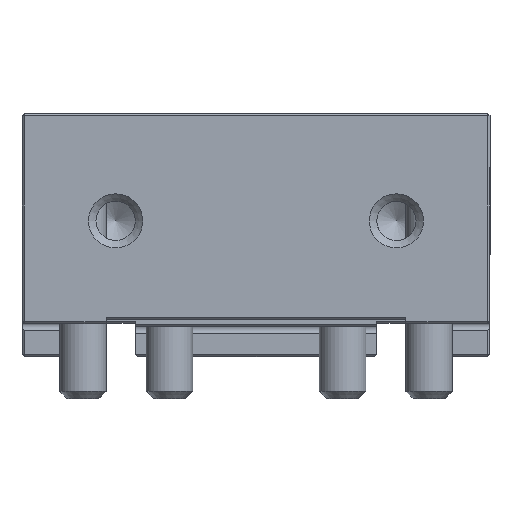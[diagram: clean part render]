
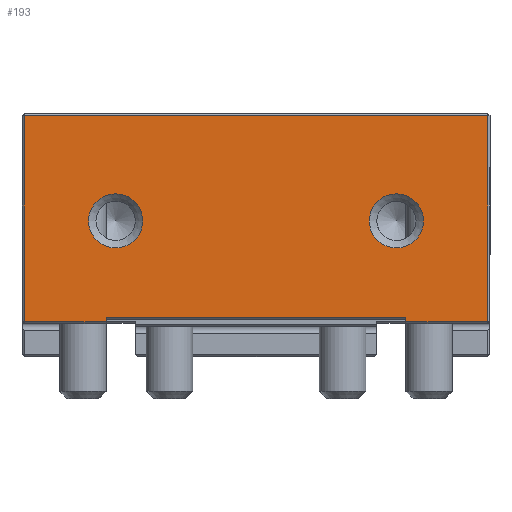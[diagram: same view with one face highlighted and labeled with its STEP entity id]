
A CAD part, front view. The second image highlights one B-rep face of the part: STEP entity #193.
In plain terms, the highlighted planar face has unit normal (0, -1, 0).
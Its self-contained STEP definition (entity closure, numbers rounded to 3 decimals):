
#193=ADVANCED_FACE('',(#3335,#3337,#3339),#3341,.T.);
#3335=FACE_BOUND('',#3336,.T.);
#3336=EDGE_LOOP('',(#6043,#6044,#6045,#6046,#6047,#6048,#6049,#6050));
#3337=FACE_BOUND('',#3338,.T.);
#3338=EDGE_LOOP('',(#6051));
#3339=FACE_BOUND('',#3340,.T.);
#3340=EDGE_LOOP('',(#6052));
#3341=PLANE('',#3342);
#3342=AXIS2_PLACEMENT_3D('',#3343,#3344,#3345);
#3343=CARTESIAN_POINT('',(-100.,0.,0.));
#3344=DIRECTION('',(0.,-1.,0.));
#3345=DIRECTION('',(0.,0.,-1.));
#6043=ORIENTED_EDGE('',*,*,#7400,.F.);
#6044=ORIENTED_EDGE('',*,*,#7401,.T.);
#6045=ORIENTED_EDGE('',*,*,#7402,.T.);
#6046=ORIENTED_EDGE('',*,*,#7403,.T.);
#6047=ORIENTED_EDGE('',*,*,#7404,.T.);
#6048=ORIENTED_EDGE('',*,*,#7364,.T.);
#6049=ORIENTED_EDGE('',*,*,#7399,.T.);
#6050=ORIENTED_EDGE('',*,*,#7405,.F.);
#6051=ORIENTED_EDGE('',*,*,#7406,.T.);
#6052=ORIENTED_EDGE('',*,*,#7407,.T.);
#7364=EDGE_CURVE('',#8075,#8072,#8076,.F.);
#7399=EDGE_CURVE('',#8072,#8138,#8140,.T.);
#7400=EDGE_CURVE('',#8141,#8142,#8143,.T.);
#7401=EDGE_CURVE('',#8141,#8144,#8145,.T.);
#7402=EDGE_CURVE('',#8144,#8146,#8147,.T.);
#7403=EDGE_CURVE('',#8146,#8148,#8149,.F.);
#7404=EDGE_CURVE('',#8148,#8075,#8150,.F.);
#7405=EDGE_CURVE('',#8142,#8138,#8151,.T.);
#7406=EDGE_CURVE('',#8152,#8152,#8153,.F.);
#7407=EDGE_CURVE('',#8154,#8154,#8155,.F.);
#8072=VERTEX_POINT('',#9627);
#8075=VERTEX_POINT('',#9632);
#8076=LINE('',#9633,#9634);
#8138=VERTEX_POINT('',#9794);
#8140=LINE('',#9798,#9799);
#8141=VERTEX_POINT('',#9801);
#8142=VERTEX_POINT('',#9802);
#8143=LINE('',#9803,#9804);
#8144=VERTEX_POINT('',#9806);
#8145=LINE('',#9807,#9808);
#8146=VERTEX_POINT('',#9810);
#8147=LINE('',#9811,#9812);
#8148=VERTEX_POINT('',#9814);
#8149=LINE('',#9815,#9816);
#8150=LINE('',#9818,#9819);
#8151=LINE('',#9821,#9822);
#8152=VERTEX_POINT('',#9824);
#8153=CIRCLE('',#9825,5.788);
#8154=VERTEX_POINT('',#9829);
#8155=CIRCLE('',#9830,5.788);
#9627=CARTESIAN_POINT('',(-18.,0.,-44.5));
#9632=CARTESIAN_POINT('',(-18.,0.,-43.6));
#9633=CARTESIAN_POINT('',(-18.,0.,-44.5));
#9634=VECTOR('',#9635,1.);
#9635=DIRECTION('',(0.,0.,1.));
#9794=CARTESIAN_POINT('',(-0.5,0.,-44.5));
#9798=CARTESIAN_POINT('',(-18.,0.,-44.5));
#9799=VECTOR('',#9800,1.);
#9800=DIRECTION('',(1.,0.,0.));
#9801=CARTESIAN_POINT('',(-99.5,0.,-0.5));
#9802=CARTESIAN_POINT('',(-0.5,0.,-0.5));
#9803=CARTESIAN_POINT('',(-99.5,0.,-0.5));
#9804=VECTOR('',#9805,1.);
#9805=DIRECTION('',(1.,0.,0.));
#9806=CARTESIAN_POINT('',(-99.5,0.,-44.5));
#9807=CARTESIAN_POINT('',(-99.5,0.,-0.5));
#9808=VECTOR('',#9809,1.);
#9809=DIRECTION('',(0.,0.,-1.));
#9810=CARTESIAN_POINT('',(-82.,0.,-44.5));
#9811=CARTESIAN_POINT('',(-99.5,0.,-44.5));
#9812=VECTOR('',#9813,1.);
#9813=DIRECTION('',(1.,0.,0.));
#9814=CARTESIAN_POINT('',(-82.,0.,-43.6));
#9815=CARTESIAN_POINT('',(-82.,0.,-43.6));
#9816=VECTOR('',#9817,1.);
#9817=DIRECTION('',(0.,0.,-1.));
#9818=CARTESIAN_POINT('',(-18.,0.,-43.6));
#9819=VECTOR('',#9820,1.);
#9820=DIRECTION('',(-1.,0.,0.));
#9821=CARTESIAN_POINT('',(-0.5,0.,-0.5));
#9822=VECTOR('',#9823,1.);
#9823=DIRECTION('',(0.,0.,-1.));
#9824=CARTESIAN_POINT('',(-74.212,0.,-23.));
#9825=AXIS2_PLACEMENT_3D('',#9826,#9827,#9828);
#9826=CARTESIAN_POINT('',(-80.,0.,-23.));
#9827=DIRECTION('',(0.,-1.,0.));
#9828=DIRECTION('',(1.,0.,0.));
#9829=CARTESIAN_POINT('',(-14.212,0.,-23.));
#9830=AXIS2_PLACEMENT_3D('',#9831,#9832,#9833);
#9831=CARTESIAN_POINT('',(-20.,0.,-23.));
#9832=DIRECTION('',(0.,-1.,0.));
#9833=DIRECTION('',(1.,0.,0.));
